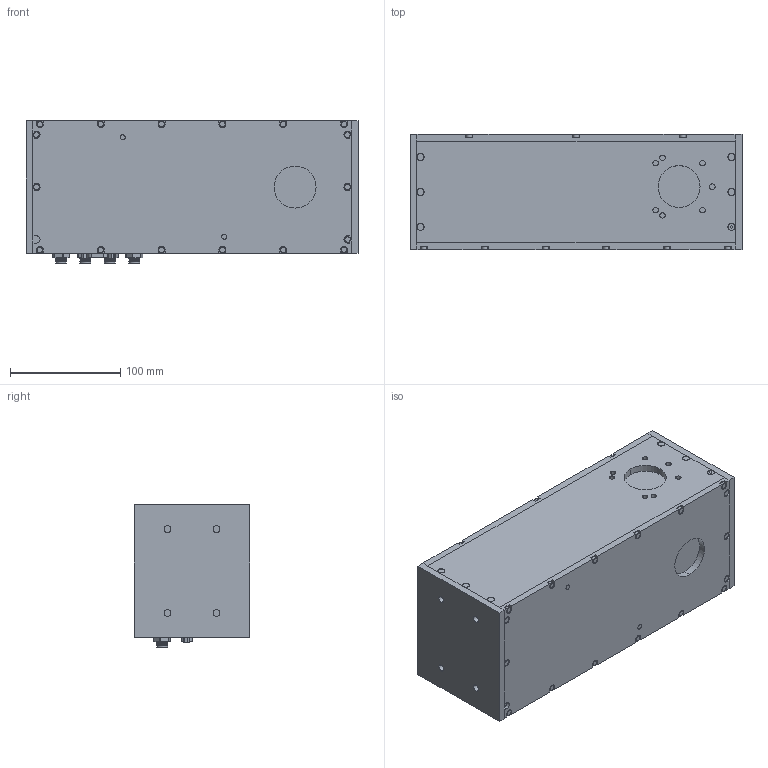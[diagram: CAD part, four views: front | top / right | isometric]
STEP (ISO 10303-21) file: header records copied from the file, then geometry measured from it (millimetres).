
FILE_DESCRIPTION (( 'STEP AP214' ), '1' );
FILE_NAME ('BSU-38-51050-PWI.STEP', '2017-02-27T20:18:24', ( '' ), ( '' ), 'SwSTEP 2.0', 'SolidWorks 2017', '' );
FILE_SCHEMA (( 'AUTOMOTIVE_DESIGN' ));
Length unit declared in the file: inch
Products named in the file (1): BSU-38-51050-PWI
Bounding box: 301.62 x 104.78 x 130.06 mm (x, y, z)
Volume: 3788856.6 mm3; surface area: 173062.2 mm2
Topology: 1 solids, 1 shells, 812 faces, 1875 edges, 1178 vertices
Faces by surface type: plane 309, cylinder 289, torus 138, cone 60, bspline 16
Entity records: 24021 total; most frequent: CARTESIAN_POINT 4910, DIRECTION 4335, ORIENTED_EDGE 3750, EDGE_CURVE 1875, AXIS2_PLACEMENT_3D 1731, VERTEX_POINT 1178, CIRCLE 934, EDGE_LOOP 925
